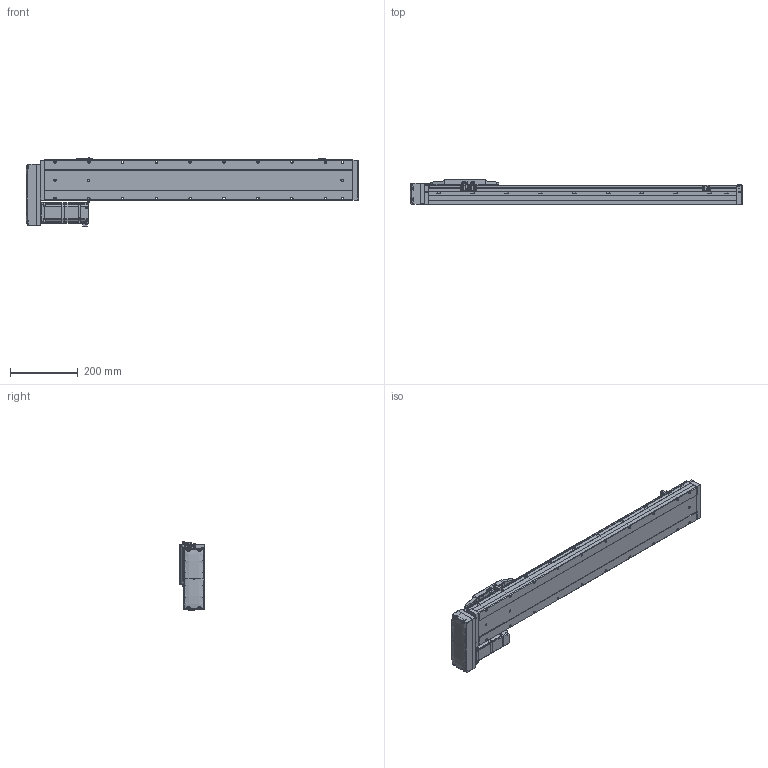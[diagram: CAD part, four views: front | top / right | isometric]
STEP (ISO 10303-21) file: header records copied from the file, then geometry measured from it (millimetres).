
FILE_DESCRIPTION (( 'STEP AP214' ), '1' );
FILE_NAME ('CTH12-L10-S700-BR-C40（简）.STEP', '2023-02-04T07:04:55', ( '' ), ( '' ), 'SwSTEP 2.0', 'SolidWorks 2018', '' );
FILE_SCHEMA (( 'AUTOMOTIVE_DESIGN' ));
Length unit declared in the file: millimetre
Products named in the file (24): CTH12覜茼え; CTH12底座-L911简（700行程）; 内六角圆柱头螺钉M3-2; CTH嫖萇羲壽假蚾啣; M5蹟隊; PM-Y45; CTH400W假蚾啣; CTH12侧装连接板（标准）简; CTH12耜蚾裔; 湮賑怢  裔赽-1(CTH12)賑怢; AC60_Valor predeterminado; CTH12-BL_body_4; 嫖萇羲壽郪磁1; 内六角圆柱头螺钉M3-1; CTH12-L10-S700-BR-C40（简）; CTH12賑怢ㄗ潠ㄘ; CTH12_body_3; 内六角圆柱头螺钉M3; CTH12賑怢郪磁; CTH400W垫板（3个厚）; CTH12; 蚐郲; 嫖萇羲壽郪磁2; hex nuts, style 1-grades ab gb_GB_FASTENER_NUT_SNAB1 M3-N
Assembly tree (44 placements, depth 4):
  CTH12-L10-S700-BR-C40（简）
    CTH12底座-L911简（700行程）
    蚐郲  x2
    CTH12_body_3
    CTH12-BL_body_4
    CTH12侧装连接板（标准）简
    CTH12耜蚾裔
    CTH12賑怢郪磁
      CTH12
        湮賑怢  裔赽-1(CTH12)賑怢
        CTH12賑怢ㄗ潠ㄘ
    CTH12覜茼え
    嫖萇羲壽郪磁1  x2
      CTH嫖萇羲壽假蚾啣
      PM-Y45
      内六角圆柱头螺钉M3-2
      内六角圆柱头螺钉M3-1
      hex nuts, style 1-grades ab gb_GB_FASTENER_NUT_SNAB1 M3-N
    嫖萇羲壽郪磁2
      CTH嫖萇羲壽假蚾啣
      PM-Y45
      内六角圆柱头螺钉M3-1  x2
      内六角圆柱头螺钉M3-2  x2
      hex nuts, style 1-grades ab gb_GB_FASTENER_NUT_SNAB1 M3-N  x2
    CTH400W垫板（3个厚）
    AC60_Valor predeterminado
    内六角圆柱头螺钉M3  x6
    M5蹟隊  x4
    CTH400W假蚾啣
Bounding box: 981.5 x 76 x 201.06 mm (x, y, z)
Volume: 6877276.6 mm3; surface area: 653136.2 mm2
Topology: 47 solids, 48 shells, 2858 faces, 7285 edges, 4645 vertices
Faces by surface type: plane 1551, cylinder 798, cone 355, bspline 102, torus 52
Entity records: 83173 total; most frequent: CARTESIAN_POINT 22926, ORIENTED_EDGE 11750, DIRECTION 11430, EDGE_CURVE 5875, AXIS2_PLACEMENT_3D 3872, VERTEX_POINT 3749, LINE 3686, VECTOR 3686
